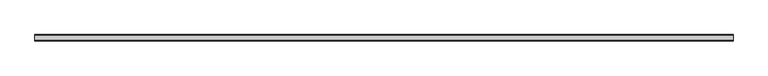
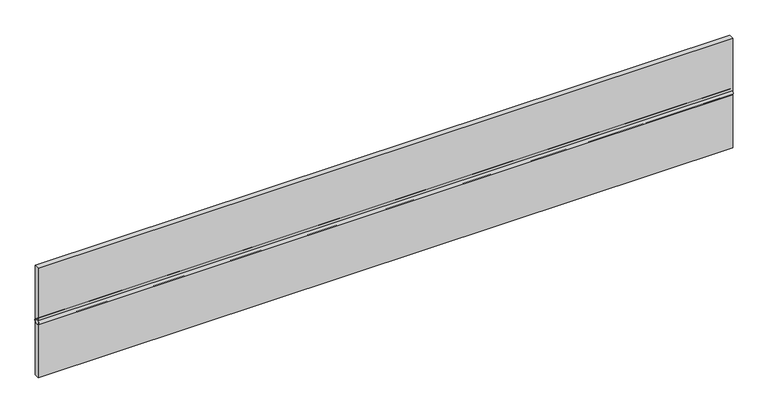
"""IFC4 building model written with IfcOpenShell, lengths in millimetres: proxy geometry, joint water stop - selon ligne plane : JWS - ép 20 mm - largeur 500 mm."""

import ifcopenshell
import ifcopenshell.guid

model = None  # the IFC model being written
_history = None  # IfcOwnerHistory: only IFC2X3 demands one
_inside = {}  # id of a spatial element -> (the spatial element, [elements in it])
_under = {}  # id of a project, library or spatial element -> (it, [spatial elements below it])
_declared = {}  # id of a project -> (the project, [libraries it declares])
_typed = {}  # id of a type object -> (the type object, [elements of that type])
_made_of = {}  # id of a material, layer set ... -> (it, [elements and type objects made of it])


def new_model(schema):
    """Start an empty IFC model of exactly this schema.

    Asked for "IFC4X3", IfcOpenShell would pick the latest addendum, in which some entities
    have other attributes; the version numbers below select the first issue.
    IFC2X3 requires an IfcOwnerHistory on every rooted entity: one is made here for all.
    """
    global model, _history
    if schema == "IFC4X3":
        model = ifcopenshell.file(schema_version=(4, 3, 0, 0))
    else:
        model = ifcopenshell.file(schema=schema)
    _inside.clear()
    _under.clear()
    _declared.clear()
    _typed.clear()
    _made_of.clear()
    _history = None
    if model.schema == "IFC2X3":
        org = make("IfcOrganization", Name="unknown")
        user = make(
            "IfcPersonAndOrganization",
            ThePerson=make("IfcPerson", FamilyName="unknown"),
            TheOrganization=org,
        )
        app = make(
            "IfcApplication",
            ApplicationDeveloper=org,
            Version="unknown",
            ApplicationFullName="unknown",
            ApplicationIdentifier="unknown",
        )
        _history = make(
            "IfcOwnerHistory",
            OwningUser=user,
            OwningApplication=app,
            ChangeAction="ADDED",
            CreationDate=0,
        )
    return model


def make(cls, **values):
    """One entity of the class cls with the attributes given. An attribute that is None is left unset."""
    return model.create_entity(
        cls, **{name: value for name, value in values.items() if value is not None}
    )


def rooted(cls, **values):
    """An entity with a GlobalId (a new one), such as an element, a storey or a relation."""
    return make(cls, GlobalId=ifcopenshell.guid.new(), OwnerHistory=_history, **values)


def si_unit(unit_type, name, prefix=None):
    """IfcSIUnit, for example si_unit("LENGTHUNIT", "METRE", prefix="MILLI")."""
    return make("IfcSIUnit", UnitType=unit_type, Prefix=prefix, Name=name)


def assignment(units):
    """IfcUnitAssignment: the units of a project."""
    return None if units is None else make("IfcUnitAssignment", Units=units)


def point(xyz):
    """IfcCartesianPoint."""
    return None if xyz is None else make("IfcCartesianPoint", Coordinates=xyz)


def direction(xyz):
    """IfcDirection."""
    return None if xyz is None else make("IfcDirection", DirectionRatios=xyz)


def frame(location, z_axis=None, x_axis=None):
    """IfcAxis2Placement3D, a coordinate frame: its origin and axes. An axis left out is left unset."""
    return make(
        "IfcAxis2Placement3D",
        Location=point(location),
        Axis=direction(z_axis),
        RefDirection=direction(x_axis),
    )


def frame_2d(location, x_axis=None):
    """IfcAxis2Placement2D, a coordinate frame in the plane: its origin and x axis."""
    return make(
        "IfcAxis2Placement2D", Location=point(location), RefDirection=direction(x_axis)
    )


def origin():
    """The frame at (0, 0, 0) with its axes left unset."""
    return frame((0.0, 0.0, 0.0))


def origin_2d():
    """The frame at (0, 0) in the plane with its x axis left unset."""
    return frame_2d((0.0, 0.0))


def place(relative_to, where):
    """IfcLocalPlacement: puts the frame where relative to a parent placement (None: the world)."""
    return make(
        "IfcLocalPlacement", PlacementRelTo=relative_to, RelativePlacement=where
    )


def context(
    kind, dimensions, precision=None, world=None, true_north=None, identifier=None
):
    """IfcGeometricRepresentationContext, for example the 3D "Model" context."""
    return make(
        "IfcGeometricRepresentationContext",
        ContextIdentifier=identifier,
        ContextType=kind,
        CoordinateSpaceDimension=dimensions,
        Precision=precision,
        WorldCoordinateSystem=world,
        TrueNorth=true_north,
    )


def project(units=None, contexts=None):
    """IfcProject with its units and contexts."""
    return rooted(
        "IfcProject",
        Name="project",
        RepresentationContexts=contexts,
        UnitsInContext=assignment(units),
    )


def spatial(cls, under=None, at=None, **own):
    """A site, building, storey or space (cls), placed at a placement, below another one or the project."""
    s = rooted(cls, ObjectPlacement=at, **own)
    if under is not None:
        _under.setdefault(under.id(), (under, []))[1].append(s)
    return s


def polyline(points):
    """IfcPolyline through the points."""
    return make("IfcPolyline", Points=[point(p) for p in points])


def circle_curve(where, radius):
    """IfcCircle in the frame where."""
    return make("IfcCircle", Position=where, Radius=radius)


def trimmed(basis, trim1, trim2, sense, master):
    """IfcTrimmedCurve: the piece of a basis curve between two trims."""
    return make(
        "IfcTrimmedCurve",
        BasisCurve=basis,
        Trim1=trim1,
        Trim2=trim2,
        SenseAgreement=sense,
        MasterRepresentation=master,
    )


def segment(curve, same_sense, transition):
    """IfcCompositeCurveSegment."""
    return make(
        "IfcCompositeCurveSegment",
        Transition=transition,
        SameSense=same_sense,
        ParentCurve=curve,
    )


def composite_curve(segments, self_intersect=None):
    """IfcCompositeCurve: segments joined end to end."""
    return make("IfcCompositeCurve", Segments=segments, SelfIntersect=self_intersect)


def outline(outer, holes=None, kind="AREA"):
    """IfcArbitraryClosedProfileDef: a profile drawn as a closed curve; with holes, ...WithVoids."""
    if holes is None:
        return make("IfcArbitraryClosedProfileDef", ProfileType=kind, OuterCurve=outer)
    return make(
        "IfcArbitraryProfileDefWithVoids",
        ProfileType=kind,
        OuterCurve=outer,
        InnerCurves=holes,
    )


def extrude(swept, where, along, depth):
    """IfcExtrudedAreaSolid: the profile swept, set in the frame where, extruded along a direction by depth."""
    return make(
        "IfcExtrudedAreaSolid",
        SweptArea=swept,
        Position=where,
        ExtrudedDirection=direction(along),
        Depth=depth,
    )


def shape(context_of_items, identifier, shape_type, items):
    """IfcShapeRepresentation: the items that make up one representation, for example the "Body"."""
    return make(
        "IfcShapeRepresentation",
        ContextOfItems=context_of_items,
        RepresentationIdentifier=identifier,
        RepresentationType=shape_type,
        Items=items,
    )


def source(mapping_origin, context_of_items, identifier, shape_type, items):
    """IfcRepresentationMap: a shape defined once, which mapped items show again and again."""
    return make(
        "IfcRepresentationMap",
        MappingOrigin=mapping_origin,
        MappedRepresentation=shape(context_of_items, identifier, shape_type, items),
    )


def transform(
    local_origin,
    x_axis=None,
    y_axis=None,
    z_axis=None,
    scale=None,
    scale2=None,
    scale3=None,
    uniform=True,
):
    """IfcCartesianTransformationOperator3D, or its non-uniform kind. x_axis, y_axis, z_axis: its Axis1, 2, 3."""
    if uniform:
        return make(
            "IfcCartesianTransformationOperator3D",
            Axis1=direction(x_axis),
            Axis2=direction(y_axis),
            LocalOrigin=point(local_origin),
            Scale=scale,
            Axis3=direction(z_axis),
        )
    return make(
        "IfcCartesianTransformationOperator3DnonUniform",
        Axis1=direction(x_axis),
        Axis2=direction(y_axis),
        LocalOrigin=point(local_origin),
        Scale=scale,
        Axis3=direction(z_axis),
        Scale2=scale2,
        Scale3=scale3,
    )


def mapped(mapping_source, mapping_target):
    """IfcMappedItem: shows the shape of a source again, moved by a transform."""
    return make(
        "IfcMappedItem", MappingSource=mapping_source, MappingTarget=mapping_target
    )


def made_of(thing, what):
    """Note that an element or type object is made of a material, layer set ...; save() writes the relation."""
    if what is not None:
        _made_of.setdefault(what.id(), (what, []))[1].append(thing)
    return thing


def element(
    cls,
    number,
    at=None,
    inside=None,
    cuts=None,
    type_object=None,
    material=None,
    context=None,
    identifier="Body",
    shape_type=None,
    held_by="IfcProductDefinitionShape",
    body=None,
    shapes=None,
    **own,
):
    """One element of the class cls, such as IfcWall. Its Tag is "e" and its number.

    at: its placement. inside: the storey or other place that contains it. cuts: it is an
    opening in that element (IfcRelVoidsElement). A single representation is given by context,
    identifier, shape_type and body (its items); several are given by shapes. held_by: the class
    of the entity that holds the representations. save() writes the other relations.
    """
    e = rooted(cls, Tag="e%d" % number, ObjectPlacement=at, **own)
    if body is not None:
        shapes = [shape(context, identifier, shape_type, body)]
    if shapes is not None:
        e.Representation = make(held_by, Representations=shapes)
    if inside is not None:
        _inside.setdefault(inside.id(), (inside, []))[1].append(e)
    if cuts is not None:
        rooted(
            "IfcRelVoidsElement", RelatingBuildingElement=cuts, RelatedOpeningElement=e
        )
    if type_object is not None:
        _typed.setdefault(type_object.id(), (type_object, []))[1].append(e)
    return made_of(e, material)


def aggregate(whole, parts):
    """IfcRelAggregates: a whole, such as a stair, and the parts it consists of."""
    return rooted("IfcRelAggregates", RelatingObject=whole, RelatedObjects=parts)


def save(model, path):
    """Write the relations noted so far, then the file.

    IfcRelAggregates (storeys below a building ...), IfcRelContainedInSpatialStructure (elements
    in a storey), IfcRelDefinesByType, IfcRelAssociatesMaterial and IfcRelDeclares: one each for
    every whole, place, type object, material and project.
    """
    for whole, parts in _under.values():
        aggregate(whole, parts)
    for where, things in _inside.values():
        rooted(
            "IfcRelContainedInSpatialStructure",
            RelatedElements=things,
            RelatingStructure=where,
        )
    for kind, things in _typed.values():
        rooted("IfcRelDefinesByType", RelatedObjects=things, RelatingType=kind)
    for what, things in _made_of.values():
        rooted("IfcRelAssociatesMaterial", RelatedObjects=things, RelatingMaterial=what)
    for by, libraries in _declared.values():
        rooted("IfcRelDeclares", RelatingContext=by, RelatedDefinitions=libraries)
    model.write(path)


def generic_models_430e72b2(model_context):
    return source(origin(), model_context, "Body", "SweptSolid", [
        extrude(outline(composite_curve([segment(trimmed(circle_curve(origin_2d(), 14.0), [point((-10.0, -9.797959))], [point((-10.0, 9.797959))], False, "CARTESIAN"), True, "CONTINUOUS"), segment(polyline([(-10.0, 9.797959), (-10.0, 250.0), (10.0, 250.0), (10.0, 9.797959)]), True, "CONTINUOUS"), segment(trimmed(circle_curve(origin_2d(), 14.0), [point((10.0, 9.797959))], [point((10.0, -9.797959))], False, "CARTESIAN"), True, "CONTINUOUS"), segment(polyline([(10.0, -9.797959), (10.0, -250.0), (-10.0, -250.0), (-10.0, -9.797959)]), True, "CONTINUOUS")], self_intersect=False), holes=[composite_curve([segment(trimmed(circle_curve(origin_2d(), 10.0), [point((-10.0, 0.0))], [point((10.0, 0.0))], True, "CARTESIAN"), True, "CONTINUOUS"), segment(trimmed(circle_curve(origin_2d(), 10.0), [point((10.0, 0.0))], [point((-10.0, 0.0))], True, "CARTESIAN"), True, "CONTINUOUS")], self_intersect=False)]), frame((0.0, 0.0, 0.0), z_axis=(1.0, 0.0, 0.0), x_axis=(0.0, 1.0, 0.0)), (0.0, 0.0, 1.0), 3000.0),
    ])


if __name__ == "__main__":
    model = new_model("IFC4")
    model_context = context("Model", 3, world=origin())
    ifc_project = project(units=[si_unit("LENGTHUNIT", "METRE", prefix="MILLI")], contexts=[model_context])
    site = spatial("IfcSite", under=ifc_project)
    building = spatial("IfcBuilding", under=site)
    placement = place(None, origin())
    generic_models_shape = generic_models_430e72b2(model_context)
    element("IfcBuildingElementProxy", 1, Name="joint water stop - selon ligne plane : JWS - ép 20 mm - largeur 500 mm", ObjectType="joint water stop - selon ligne plane : JWS - ép 20 mm - largeur 500 mm", at=placement, inside=building, context=model_context, shape_type="MappedRepresentation", body=[
        mapped(generic_models_shape, transform((0.0, 0.0, 0.0), x_axis=(1.0, 0.0, 0.0), y_axis=(0.0, 1.0, 0.0), z_axis=(0.0, 0.0, 1.0))),
    ])
    save(model, "model.ifc")
